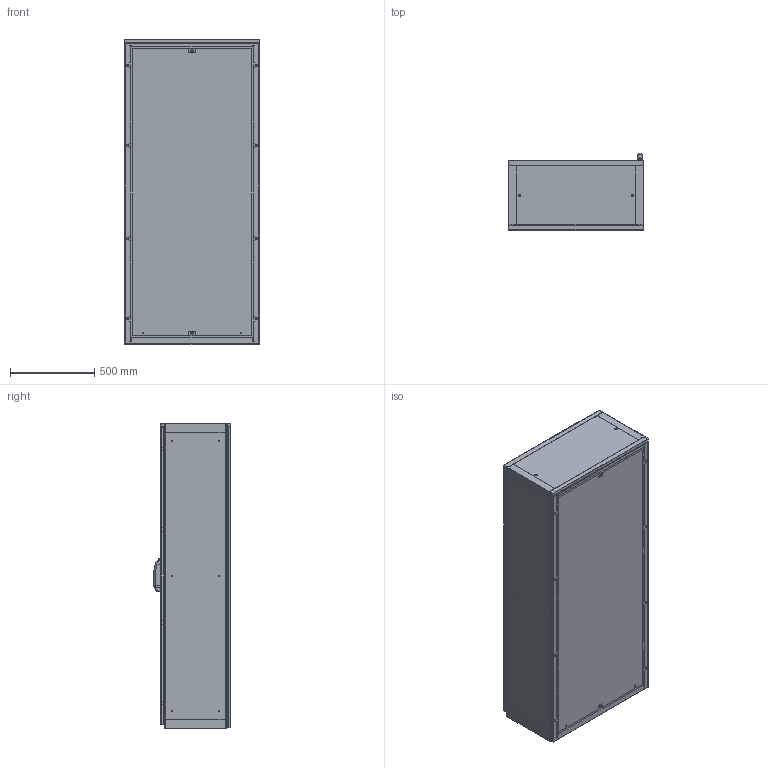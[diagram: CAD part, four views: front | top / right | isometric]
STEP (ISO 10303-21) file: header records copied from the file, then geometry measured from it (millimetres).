
FILE_DESCRIPTION (( 'STEP AP203' ), '1' );
FILE_NAME ('EMOX081804PR.STEP', '2025-06-03T09:24:53', ( '' ), ( '' ), 'SwSTEP 2.0', 'SolidWorks 2022', '' );
FILE_SCHEMA (( 'CONFIG_CONTROL_DESIGN' ));
Length unit declared in the file: millimetre
Products named in the file (9): AR_EMOX_Piastra_frontale_2.5_0800x1800; AR_EMOX_montaggio_porta_singlola_2.0_0800x1800_ANT_DX; AR_EMOX_struttura_0800x1800x0400; AR_ENUX_nuova_maniglia_mesan; AR_EMOX_Porta_singola_2.0_0800x1800_ANT; EMOX081804PR; AR_EMOX_Tegolino_0800x0100; AR_EMOX_Retro_singolo_0800x1800; AR_EMOX_Tegolino_0800x0050
Assembly tree (9 placements, depth 3):
  EMOX081804PR
    AR_EMOX_struttura_0800x1800x0400
    AR_EMOX_montaggio_porta_singlola_2.0_0800x1800_ANT_DX
      AR_EMOX_Porta_singola_2.0_0800x1800_ANT
      AR_ENUX_nuova_maniglia_mesan
    AR_EMOX_Retro_singolo_0800x1800
    AR_EMOX_Tegolino_0800x0050  x2
    AR_EMOX_Tegolino_0800x0100
    AR_EMOX_Piastra_frontale_2.5_0800x1800
Bounding box: 800 x 456.5 x 1809 mm (x, y, z)
Volume: 13802355.7 mm3; surface area: 15775505.6 mm2
Topology: 8 solids, 8 shells, 2294 faces, 6390 edges, 4106 vertices
Faces by surface type: plane 1205, cylinder 954, cone 52, torus 38, bspline 25, sphere 20
Entity records: 77764 total; most frequent: CARTESIAN_POINT 16211, DIRECTION 12631, ORIENTED_EDGE 12436, EDGE_CURVE 6218, AXIS2_PLACEMENT_3D 4265, VECTOR 4101, LINE 4101, VERTEX_POINT 4026
